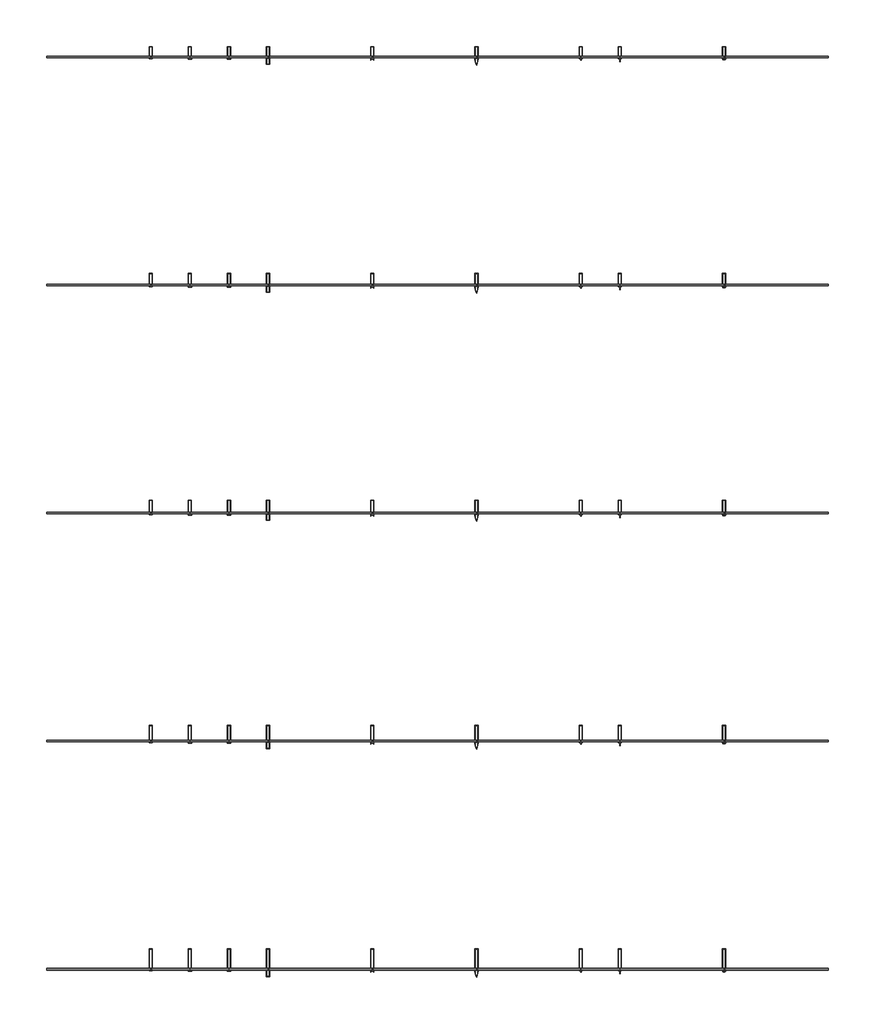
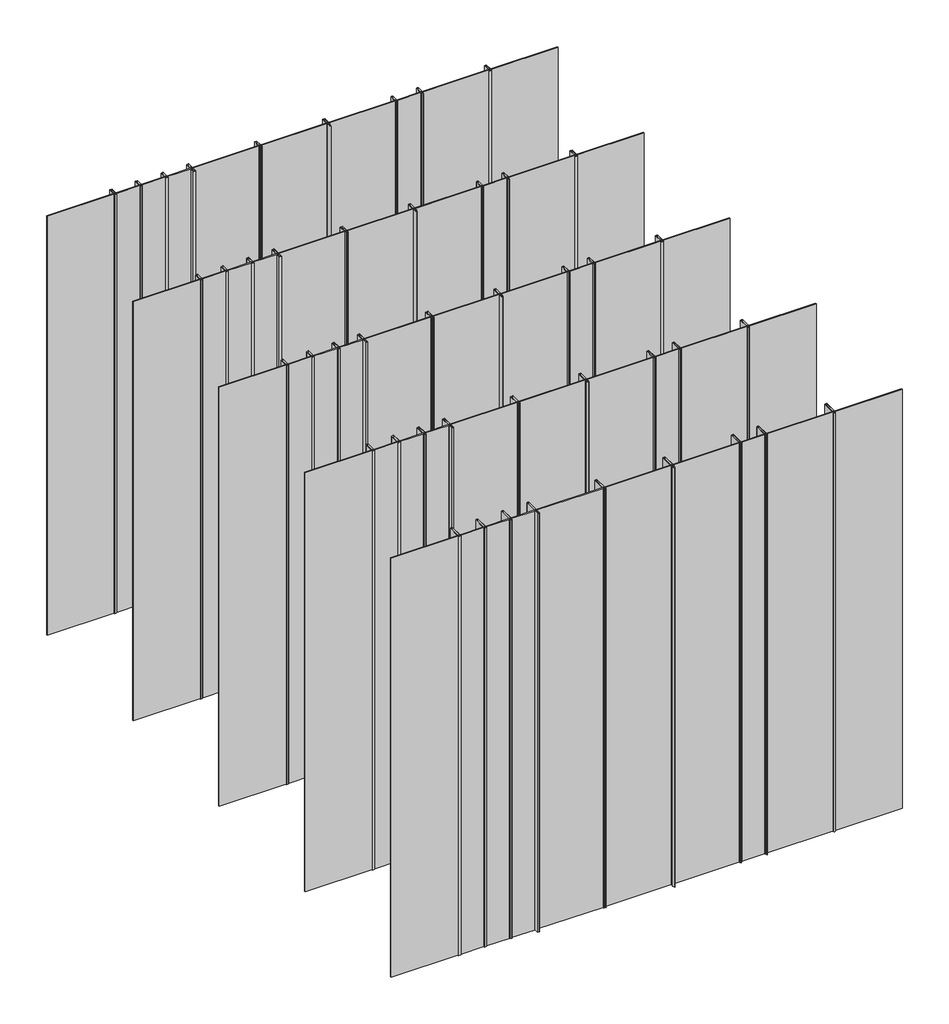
# One storey, part 1 of 4: 50 plates, 45 members.
"""IFC4 building model written with IfcOpenShell, lengths in millimetres."""

from ifc_helpers import new_model, si_unit, origin, place, context, project, spatial, transform, mapped, element, save
from components import rectangular_mullion_d0eb4cb8, rectangular_mullion_f5edc5a7, rectangular_mullion_cf849627, rectangular_mullion_43de7448, rectangular_mullion_2c88a467, rectangular_mullion_527ebe75, rectangular_mullion_81fc8274, rectangular_mullion_62c5082b, rectangular_mullion_2c83495f, rectangular_mullion_db33fd7b, rectangular_mullion_036f0f09, rectangular_mullion_a5cadd81, rectangular_mullion_3d8f77e9, rectangular_mullion_0ee489e0, rectangular_mullion_ee727ef9, rectangular_mullion_229a14fd, rectangular_mullion_20ecc878, rectangular_mullion_15e3f534, rectangular_mullion_2822aa4c, rectangular_mullion_aae8f897, rectangular_mullion_af04c52f, rectangular_mullion_7139fb04, rectangular_mullion_7e934bc7, rectangular_mullion_a4b37306, rectangular_mullion_7ff22dc9, rectangular_mullion_8f96b9b0, rectangular_mullion_b52e2a40, rectangular_mullion_8de3acb8, rectangular_mullion_db6ba1d2, rectangular_mullion_6ef7ea1f, rectangular_mullion_970c577f, rectangular_mullion_9c625121, rectangular_mullion_58af8453, rectangular_mullion_57f380c9, rectangular_mullion_feab08c6, rectangular_mullion_ce290009, rectangular_mullion_144b9211, rectangular_mullion_dca4aa0a, rectangular_mullion_fc27753a, rectangular_mullion_9ba78f65, rectangular_mullion_7aba0d7b, rectangular_mullion_e1deb40f, rectangular_mullion_7178fe73, rectangular_mullion_e64b012d, rectangular_mullion_f5329817, system_panel_glazed_5a8f3fa4, system_panel_glazed_dbcdabc9, system_panel_glazed_78f67ebd, system_panel_glazed_138f9669

model = new_model("IFC4")

# Units and contexts
model_context = context("Model", 3, world=origin())
ifc_project = project(units=[si_unit("LENGTHUNIT", "METRE", prefix="MILLI")], contexts=[model_context])

# Site, building, storey
site = spatial("IfcSite", under=ifc_project)
building = spatial("IfcBuilding", under=site)
storey = spatial("IfcBuildingStorey", under=building, Name="REY 01 - Overview Mullions", Elevation=0.0)

# Members
placement = place(None, origin())
rectangular_mullion_shape = rectangular_mullion_d0eb4cb8(model_context)
element("IfcMember", 1, ObjectType="Rectangular Mullion : Reynaers_CW-50_Mullion-Transom_Vertical_149.8mm_Facecap-02A", at=placement, inside=storey, context=model_context, shape_type="MappedRepresentation", body=[
    mapped(rectangular_mullion_shape, transform((-14129.591144, -18600.3540011, 0.0), x_axis=(-1.0, 0.0, 0.0), y_axis=(0.0, 1.0, 0.0), z_axis=(0.0, 0.0, -1.0))),
])
rectangular_mullion_2_shape = rectangular_mullion_f5edc5a7(model_context)
element("IfcMember", 2, ObjectType="Rectangular Mullion : Reynaers_CW-50_Mullion-Transom_Vertical_149.8mm_Facecap-02B", at=placement, inside=storey, context=model_context, shape_type="MappedRepresentation", body=[
    mapped(rectangular_mullion_2_shape, transform((-13529.591144, -18600.3540011, 0.0), x_axis=(-1.0, 0.0, 0.0), y_axis=(0.0, 1.0, 0.0), z_axis=(0.0, 0.0, -1.0))),
])
rectangular_mullion_3_shape = rectangular_mullion_cf849627(model_context)
element("IfcMember", 3, ObjectType="Rectangular Mullion : Reynaers_CW-50_Mullion-Transom_Vertical_149.8mm_Facecap-02C", at=placement, inside=storey, context=model_context, shape_type="MappedRepresentation", body=[
    mapped(rectangular_mullion_3_shape, transform((-12929.591144, -18600.3540011, 0.0), x_axis=(-1.0, 0.0, 0.0), y_axis=(0.0, 1.0, 0.0), z_axis=(0.0, 0.0, -1.0))),
])
rectangular_mullion_4_shape = rectangular_mullion_43de7448(model_context)
element("IfcMember", 4, ObjectType="Rectangular Mullion : Reynaers_CW-50_Mullion-Transom_Vertical_149.8mm_Facecap-02D", at=placement, inside=storey, context=model_context, shape_type="MappedRepresentation", body=[
    mapped(rectangular_mullion_4_shape, transform((-12329.591144, -18600.3540011, 0.0), x_axis=(-1.0, 0.0, 0.0), y_axis=(0.0, 1.0, 0.0), z_axis=(0.0, 0.0, -1.0))),
])
rectangular_mullion_5_shape = rectangular_mullion_2c88a467(model_context)
element("IfcMember", 5, ObjectType="Rectangular Mullion : Reynaers_CW-50_Mullion-Transom_Vertical_149.8mm_Facecap-03", at=placement, inside=storey, context=model_context, shape_type="MappedRepresentation", body=[
    mapped(rectangular_mullion_5_shape, transform((-10729.591144, -18600.3540011, 0.0), x_axis=(-1.0, 0.0, 0.0), y_axis=(0.0, 1.0, 0.0), z_axis=(0.0, 0.0, -1.0))),
])
rectangular_mullion_6_shape = rectangular_mullion_527ebe75(model_context)
element("IfcMember", 6, ObjectType="Rectangular Mullion : Reynaers_CW-50_Mullion-Transom_Vertical_149.5mm_Facecap-05", at=placement, inside=storey, context=model_context, shape_type="MappedRepresentation", body=[
    mapped(rectangular_mullion_6_shape, transform((-9129.591144, -18600.3540011, 0.0), x_axis=(-1.0, 0.0, 0.0), y_axis=(0.0, 1.0, 0.0), z_axis=(0.0, 0.0, -1.0))),
])
rectangular_mullion_7_shape = rectangular_mullion_81fc8274(model_context)
element("IfcMember", 7, ObjectType="Rectangular Mullion : Reynaers_CW-50_Mullion-Transom_Vertical_149.5mm_Facecap-06A", at=placement, inside=storey, context=model_context, shape_type="MappedRepresentation", body=[
    mapped(rectangular_mullion_7_shape, transform((-7529.591144, -18600.3540011, 0.0), x_axis=(-1.0, 0.0, 0.0), y_axis=(0.0, 1.0, 0.0), z_axis=(0.0, 0.0, -1.0))),
])
rectangular_mullion_8_shape = rectangular_mullion_62c5082b(model_context)
element("IfcMember", 8, ObjectType="Rectangular Mullion : Reynaers_CW-50_Mullion-Transom_Vertical_149.5mm_Facecap-06B", at=placement, inside=storey, context=model_context, shape_type="MappedRepresentation", body=[
    mapped(rectangular_mullion_8_shape, transform((-6929.591144, -18600.3540011, 0.0), x_axis=(-1.0, 0.0, 0.0), y_axis=(0.0, 1.0, 0.0), z_axis=(0.0, 0.0, -1.0))),
])
rectangular_mullion_9_shape = rectangular_mullion_2c83495f(model_context)
element("IfcMember", 9, ObjectType="Rectangular Mullion : Reynaers_CW-50_Mullion-Transom_Vertical_149.5mm_Facecap-07", at=placement, inside=storey, context=model_context, shape_type="MappedRepresentation", body=[
    mapped(rectangular_mullion_9_shape, transform((-5329.591144, -18600.3540011, 0.0), x_axis=(-1.0, 0.0, 0.0), y_axis=(0.0, 1.0, 0.0), z_axis=(0.0, 0.0, -1.0))),
])
rectangular_mullion_10_shape = rectangular_mullion_db33fd7b(model_context)
element("IfcMember", 10, ObjectType="Rectangular Mullion : Reynaers_CW-50_Mullion-Transom_Vertical_167.5mm_Facecap-02A", at=placement, inside=storey, context=model_context, shape_type="MappedRepresentation", body=[
    mapped(rectangular_mullion_10_shape, transform((-14129.591144, -22100.3540011, 0.0), x_axis=(-1.0, 0.0, 0.0), y_axis=(0.0, 1.0, 0.0), z_axis=(0.0, 0.0, -1.0))),
])
rectangular_mullion_11_shape = rectangular_mullion_036f0f09(model_context)
element("IfcMember", 11, ObjectType="Rectangular Mullion : Reynaers_CW-50_Mullion-Transom_Vertical_167.5mm_Facecap-02B", at=placement, inside=storey, context=model_context, shape_type="MappedRepresentation", body=[
    mapped(rectangular_mullion_11_shape, transform((-13529.591144, -22100.3540011, 0.0), x_axis=(-1.0, 0.0, 0.0), y_axis=(0.0, 1.0, 0.0), z_axis=(0.0, 0.0, -1.0))),
])
rectangular_mullion_12_shape = rectangular_mullion_a5cadd81(model_context)
element("IfcMember", 12, ObjectType="Rectangular Mullion : Reynaers_CW-50_Mullion-Transom_Vertical_167.5mm_Facecap-02C", at=placement, inside=storey, context=model_context, shape_type="MappedRepresentation", body=[
    mapped(rectangular_mullion_12_shape, transform((-12929.591144, -22100.3540011, 0.0), x_axis=(-1.0, 0.0, 0.0), y_axis=(0.0, 1.0, 0.0), z_axis=(0.0, 0.0, -1.0))),
])
rectangular_mullion_13_shape = rectangular_mullion_3d8f77e9(model_context)
element("IfcMember", 13, ObjectType="Rectangular Mullion : Reynaers_CW-50_Mullion-Transom_Vertical_167.5mm_Facecap-02D", at=placement, inside=storey, context=model_context, shape_type="MappedRepresentation", body=[
    mapped(rectangular_mullion_13_shape, transform((-12329.591144, -22100.3540011, 0.0), x_axis=(-1.0, 0.0, 0.0), y_axis=(0.0, 1.0, 0.0), z_axis=(0.0, 0.0, -1.0))),
])
rectangular_mullion_14_shape = rectangular_mullion_0ee489e0(model_context)
element("IfcMember", 14, ObjectType="Rectangular Mullion : Reynaers_CW-50_Mullion-Transom_Vertical_167.5mm_Facecap-03", at=placement, inside=storey, context=model_context, shape_type="MappedRepresentation", body=[
    mapped(rectangular_mullion_14_shape, transform((-10729.591144, -22100.3540011, 0.0), x_axis=(-1.0, 0.0, 0.0), y_axis=(0.0, 1.0, 0.0), z_axis=(0.0, 0.0, -1.0))),
])
rectangular_mullion_15_shape = rectangular_mullion_ee727ef9(model_context)
element("IfcMember", 15, ObjectType="Rectangular Mullion : Reynaers_CW-50_Mullion-Transom_Vertical_167.5mm_Facecap-05", at=placement, inside=storey, context=model_context, shape_type="MappedRepresentation", body=[
    mapped(rectangular_mullion_15_shape, transform((-9129.591144, -22100.3540011, 0.0), x_axis=(-1.0, 0.0, 0.0), y_axis=(0.0, 1.0, 0.0), z_axis=(0.0, 0.0, -1.0))),
])
rectangular_mullion_16_shape = rectangular_mullion_229a14fd(model_context)
element("IfcMember", 16, ObjectType="Rectangular Mullion : Reynaers_CW-50_Mullion-Transom_Vertical_167.5mm_Facecap-06A", at=placement, inside=storey, context=model_context, shape_type="MappedRepresentation", body=[
    mapped(rectangular_mullion_16_shape, transform((-7529.591144, -22100.3540011, 0.0), x_axis=(-1.0, 0.0, 0.0), y_axis=(0.0, 1.0, 0.0), z_axis=(0.0, 0.0, -1.0))),
])
rectangular_mullion_17_shape = rectangular_mullion_20ecc878(model_context)
element("IfcMember", 17, ObjectType="Rectangular Mullion : Reynaers_CW-50_Mullion-Transom_Vertical_167.5mm_Facecap-06B", at=placement, inside=storey, context=model_context, shape_type="MappedRepresentation", body=[
    mapped(rectangular_mullion_17_shape, transform((-6929.591144, -22100.3540011, 0.0), x_axis=(-1.0, 0.0, 0.0), y_axis=(0.0, 1.0, 0.0), z_axis=(0.0, 0.0, -1.0))),
])
rectangular_mullion_18_shape = rectangular_mullion_15e3f534(model_context)
element("IfcMember", 18, ObjectType="Rectangular Mullion : Reynaers_CW-50_Mullion-Transom_Vertical_167.5mm_Facecap-07", at=placement, inside=storey, context=model_context, shape_type="MappedRepresentation", body=[
    mapped(rectangular_mullion_18_shape, transform((-5329.591144, -22100.3540011, 0.0), x_axis=(-1.0, 0.0, 0.0), y_axis=(0.0, 1.0, 0.0), z_axis=(0.0, 0.0, -1.0))),
])
rectangular_mullion_19_shape = rectangular_mullion_2822aa4c(model_context)
element("IfcMember", 19, ObjectType="Rectangular Mullion : Reynaers_CW-50_Mullion-Transom_Vertical_188.5mm_Facecap-02A", at=placement, inside=storey, context=model_context, shape_type="MappedRepresentation", body=[
    mapped(rectangular_mullion_19_shape, transform((-14129.591144, -25600.3540011, 0.0), x_axis=(-1.0, 0.0, 0.0), y_axis=(0.0, 1.0, 0.0), z_axis=(0.0, 0.0, -1.0))),
])
rectangular_mullion_20_shape = rectangular_mullion_aae8f897(model_context)
element("IfcMember", 20, ObjectType="Rectangular Mullion : Reynaers_CW-50_Mullion-Transom_Vertical_188.5mm_Facecap-02B", at=placement, inside=storey, context=model_context, shape_type="MappedRepresentation", body=[
    mapped(rectangular_mullion_20_shape, transform((-13529.591144, -25600.3540011, 0.0), x_axis=(-1.0, 0.0, 0.0), y_axis=(0.0, 1.0, 0.0), z_axis=(0.0, 0.0, -1.0))),
])
rectangular_mullion_21_shape = rectangular_mullion_af04c52f(model_context)
element("IfcMember", 21, ObjectType="Rectangular Mullion : Reynaers_CW-50_Mullion-Transom_Vertical_188.5mm_Facecap-02C", at=placement, inside=storey, context=model_context, shape_type="MappedRepresentation", body=[
    mapped(rectangular_mullion_21_shape, transform((-12929.591144, -25600.3540011, 0.0), x_axis=(-1.0, 0.0, 0.0), y_axis=(0.0, 1.0, 0.0), z_axis=(0.0, 0.0, -1.0))),
])
rectangular_mullion_22_shape = rectangular_mullion_7139fb04(model_context)
element("IfcMember", 22, ObjectType="Rectangular Mullion : Reynaers_CW-50_Mullion-Transom_Vertical_188.5mm_Facecap-02D", at=placement, inside=storey, context=model_context, shape_type="MappedRepresentation", body=[
    mapped(rectangular_mullion_22_shape, transform((-12329.591144, -25600.3540011, 0.0), x_axis=(-1.0, 0.0, 0.0), y_axis=(0.0, 1.0, 0.0), z_axis=(0.0, 0.0, -1.0))),
])
rectangular_mullion_23_shape = rectangular_mullion_7e934bc7(model_context)
element("IfcMember", 23, ObjectType="Rectangular Mullion : Reynaers_CW-50_Mullion-Transom_Vertical_188.5mm_Facecap-03", at=placement, inside=storey, context=model_context, shape_type="MappedRepresentation", body=[
    mapped(rectangular_mullion_23_shape, transform((-10729.591144, -25600.3540011, 0.0), x_axis=(-1.0, 0.0, 0.0), y_axis=(0.0, 1.0, 0.0), z_axis=(0.0, 0.0, -1.0))),
])
rectangular_mullion_24_shape = rectangular_mullion_a4b37306(model_context)
element("IfcMember", 24, ObjectType="Rectangular Mullion : Reynaers_CW-50_Mullion-Transom_Vertical_188.5mm_Facecap-05", at=placement, inside=storey, context=model_context, shape_type="MappedRepresentation", body=[
    mapped(rectangular_mullion_24_shape, transform((-9129.591144, -25600.3540011, 0.0), x_axis=(-1.0, 0.0, 0.0), y_axis=(0.0, 1.0, 0.0), z_axis=(0.0, 0.0, -1.0))),
])
rectangular_mullion_25_shape = rectangular_mullion_7ff22dc9(model_context)
element("IfcMember", 25, ObjectType="Rectangular Mullion : Reynaers_CW-50_Mullion-Transom_Vertical_188.5mm_Facecap-06A", at=placement, inside=storey, context=model_context, shape_type="MappedRepresentation", body=[
    mapped(rectangular_mullion_25_shape, transform((-7529.591144, -25600.3540011, 0.0), x_axis=(-1.0, 0.0, 0.0), y_axis=(0.0, 1.0, 0.0), z_axis=(0.0, 0.0, -1.0))),
])
rectangular_mullion_26_shape = rectangular_mullion_8f96b9b0(model_context)
element("IfcMember", 26, ObjectType="Rectangular Mullion : Reynaers_CW-50_Mullion-Transom_Vertical_188.5mm_Facecap-06B", at=placement, inside=storey, context=model_context, shape_type="MappedRepresentation", body=[
    mapped(rectangular_mullion_26_shape, transform((-6929.591144, -25600.3540011, 0.0), x_axis=(-1.0, 0.0, 0.0), y_axis=(0.0, 1.0, 0.0), z_axis=(0.0, 0.0, -1.0))),
])
rectangular_mullion_27_shape = rectangular_mullion_b52e2a40(model_context)
element("IfcMember", 27, ObjectType="Rectangular Mullion : Reynaers_CW-50_Mullion-Transom_Vertical_188.5mm_Facecap-07", at=placement, inside=storey, context=model_context, shape_type="MappedRepresentation", body=[
    mapped(rectangular_mullion_27_shape, transform((-5329.591144, -25600.3540011, 0.0), x_axis=(-1.0, 0.0, 0.0), y_axis=(0.0, 1.0, 0.0), z_axis=(0.0, 0.0, -1.0))),
])
rectangular_mullion_28_shape = rectangular_mullion_8de3acb8(model_context)
element("IfcMember", 28, ObjectType="Rectangular Mullion : Reynaers_CW-50_Mullion-Transom_Vertical_230.5mm_Facecap-02A", at=placement, inside=storey, context=model_context, shape_type="MappedRepresentation", body=[
    mapped(rectangular_mullion_28_shape, transform((-14129.591144, -29100.3540011, 0.0), x_axis=(-1.0, 0.0, 0.0), y_axis=(0.0, 1.0, 0.0), z_axis=(0.0, 0.0, -1.0))),
])
rectangular_mullion_29_shape = rectangular_mullion_db6ba1d2(model_context)
element("IfcMember", 29, ObjectType="Rectangular Mullion : Reynaers_CW-50_Mullion-Transom_Vertical_230.5mm_Facecap-02B", at=placement, inside=storey, context=model_context, shape_type="MappedRepresentation", body=[
    mapped(rectangular_mullion_29_shape, transform((-13529.591144, -29100.3540011, 0.0), x_axis=(-1.0, 0.0, 0.0), y_axis=(0.0, 1.0, 0.0), z_axis=(0.0, 0.0, -1.0))),
])
rectangular_mullion_30_shape = rectangular_mullion_6ef7ea1f(model_context)
element("IfcMember", 30, ObjectType="Rectangular Mullion : Reynaers_CW-50_Mullion-Transom_Vertical_230.5mm_Facecap-02C", at=placement, inside=storey, context=model_context, shape_type="MappedRepresentation", body=[
    mapped(rectangular_mullion_30_shape, transform((-12929.591144, -29100.3540011, 0.0), x_axis=(-1.0, 0.0, 0.0), y_axis=(0.0, 1.0, 0.0), z_axis=(0.0, 0.0, -1.0))),
])
rectangular_mullion_31_shape = rectangular_mullion_970c577f(model_context)
element("IfcMember", 31, ObjectType="Rectangular Mullion : Reynaers_CW-50_Mullion-Transom_Vertical_230.5mm_Facecap-02D", at=placement, inside=storey, context=model_context, shape_type="MappedRepresentation", body=[
    mapped(rectangular_mullion_31_shape, transform((-12329.591144, -29100.3540011, 0.0), x_axis=(-1.0, 0.0, 0.0), y_axis=(0.0, 1.0, 0.0), z_axis=(0.0, 0.0, -1.0))),
])
rectangular_mullion_32_shape = rectangular_mullion_9c625121(model_context)
element("IfcMember", 32, ObjectType="Rectangular Mullion : Reynaers_CW-50_Mullion-Transom_Vertical_230.5mm_Facecap-03", at=placement, inside=storey, context=model_context, shape_type="MappedRepresentation", body=[
    mapped(rectangular_mullion_32_shape, transform((-10729.591144, -29100.3540011, 0.0), x_axis=(-1.0, 0.0, 0.0), y_axis=(0.0, 1.0, 0.0), z_axis=(0.0, 0.0, -1.0))),
])
rectangular_mullion_33_shape = rectangular_mullion_58af8453(model_context)
element("IfcMember", 33, ObjectType="Rectangular Mullion : Reynaers_CW-50_Mullion-Transom_Vertical_230.5mm_Facecap-05", at=placement, inside=storey, context=model_context, shape_type="MappedRepresentation", body=[
    mapped(rectangular_mullion_33_shape, transform((-9129.591144, -29100.3540011, 0.0), x_axis=(-1.0, 0.0, 0.0), y_axis=(0.0, 1.0, 0.0), z_axis=(0.0, 0.0, -1.0))),
])
rectangular_mullion_34_shape = rectangular_mullion_57f380c9(model_context)
element("IfcMember", 34, ObjectType="Rectangular Mullion : Reynaers_CW-50_Mullion-Transom_Vertical_230.5mm_Facecap-06A", at=placement, inside=storey, context=model_context, shape_type="MappedRepresentation", body=[
    mapped(rectangular_mullion_34_shape, transform((-7529.591144, -29100.3540011, 0.0), x_axis=(-1.0, 0.0, 0.0), y_axis=(0.0, 1.0, 0.0), z_axis=(0.0, 0.0, -1.0))),
])
rectangular_mullion_35_shape = rectangular_mullion_feab08c6(model_context)
element("IfcMember", 35, ObjectType="Rectangular Mullion : Reynaers_CW-50_Mullion-Transom_Vertical_230.5mm_Facecap-06B", at=placement, inside=storey, context=model_context, shape_type="MappedRepresentation", body=[
    mapped(rectangular_mullion_35_shape, transform((-6929.591144, -29100.3540011, 0.0), x_axis=(-1.0, 0.0, 0.0), y_axis=(0.0, 1.0, 0.0), z_axis=(0.0, 0.0, -1.0))),
])
rectangular_mullion_36_shape = rectangular_mullion_ce290009(model_context)
element("IfcMember", 36, ObjectType="Rectangular Mullion : Reynaers_CW-50_Mullion-Transom_Vertical_230.5mm_Facecap-07", at=placement, inside=storey, context=model_context, shape_type="MappedRepresentation", body=[
    mapped(rectangular_mullion_36_shape, transform((-5329.591144, -29100.3540011, 0.0), x_axis=(-1.0, 0.0, 0.0), y_axis=(0.0, 1.0, 0.0), z_axis=(0.0, 0.0, -1.0))),
])
rectangular_mullion_37_shape = rectangular_mullion_144b9211(model_context)
element("IfcMember", 37, ObjectType="Rectangular Mullion : Reynaers_CW-50_Mullion-Transom_Vertical_300.5mm_Facecap-02A", at=placement, inside=storey, context=model_context, shape_type="MappedRepresentation", body=[
    mapped(rectangular_mullion_37_shape, transform((-14129.591144, -32600.3540011, 0.0), x_axis=(-1.0, 0.0, 0.0), y_axis=(0.0, 1.0, 0.0), z_axis=(0.0, 0.0, -1.0))),
])
rectangular_mullion_38_shape = rectangular_mullion_dca4aa0a(model_context)
element("IfcMember", 38, ObjectType="Rectangular Mullion : Reynaers_CW-50_Mullion-Transom_Vertical_300.5mm_Facecap-02B", at=placement, inside=storey, context=model_context, shape_type="MappedRepresentation", body=[
    mapped(rectangular_mullion_38_shape, transform((-13529.591144, -32600.3540011, 0.0), x_axis=(-1.0, 0.0, 0.0), y_axis=(0.0, 1.0, 0.0), z_axis=(0.0, 0.0, -1.0))),
])
rectangular_mullion_39_shape = rectangular_mullion_fc27753a(model_context)
element("IfcMember", 39, ObjectType="Rectangular Mullion : Reynaers_CW-50_Mullion-Transom_Vertical_300.5mm_Facecap-02C", at=placement, inside=storey, context=model_context, shape_type="MappedRepresentation", body=[
    mapped(rectangular_mullion_39_shape, transform((-12929.591144, -32600.3540011, 0.0), x_axis=(-1.0, 0.0, 0.0), y_axis=(0.0, 1.0, 0.0), z_axis=(0.0, 0.0, -1.0))),
])
rectangular_mullion_40_shape = rectangular_mullion_9ba78f65(model_context)
element("IfcMember", 40, ObjectType="Rectangular Mullion : Reynaers_CW-50_Mullion-Transom_Vertical_300.5mm_Facecap-02D", at=placement, inside=storey, context=model_context, shape_type="MappedRepresentation", body=[
    mapped(rectangular_mullion_40_shape, transform((-12329.591144, -32600.3540011, 0.0), x_axis=(-1.0, 0.0, 0.0), y_axis=(0.0, 1.0, 0.0), z_axis=(0.0, 0.0, -1.0))),
])
rectangular_mullion_41_shape = rectangular_mullion_7aba0d7b(model_context)
element("IfcMember", 41, ObjectType="Rectangular Mullion : Reynaers_CW-50_Mullion-Transom_Vertical_300.5mm_Facecap-03", at=placement, inside=storey, context=model_context, shape_type="MappedRepresentation", body=[
    mapped(rectangular_mullion_41_shape, transform((-10729.591144, -32600.3540011, 0.0), x_axis=(-1.0, 0.0, 0.0), y_axis=(0.0, 1.0, 0.0), z_axis=(0.0, 0.0, -1.0))),
])
rectangular_mullion_42_shape = rectangular_mullion_e1deb40f(model_context)
element("IfcMember", 42, ObjectType="Rectangular Mullion : Reynaers_CW-50_Mullion-Transom_Vertical_300.5mm_Facecap-05", at=placement, inside=storey, context=model_context, shape_type="MappedRepresentation", body=[
    mapped(rectangular_mullion_42_shape, transform((-9129.591144, -32600.3540011, 0.0), x_axis=(-1.0, 0.0, 0.0), y_axis=(0.0, 1.0, 0.0), z_axis=(0.0, 0.0, -1.0))),
])
rectangular_mullion_43_shape = rectangular_mullion_7178fe73(model_context)
element("IfcMember", 43, ObjectType="Rectangular Mullion : Reynaers_CW-50_Mullion-Transom_Vertical_300.5mm_Facecap-06A", at=placement, inside=storey, context=model_context, shape_type="MappedRepresentation", body=[
    mapped(rectangular_mullion_43_shape, transform((-7529.591144, -32600.3540011, 0.0), x_axis=(-1.0, 0.0, 0.0), y_axis=(0.0, 1.0, 0.0), z_axis=(0.0, 0.0, -1.0))),
])
rectangular_mullion_44_shape = rectangular_mullion_e64b012d(model_context)
element("IfcMember", 44, ObjectType="Rectangular Mullion : Reynaers_CW-50_Mullion-Transom_Vertical_300.5mm_Facecap-06B", at=placement, inside=storey, context=model_context, shape_type="MappedRepresentation", body=[
    mapped(rectangular_mullion_44_shape, transform((-6929.591144, -32600.3540011, 0.0), x_axis=(-1.0, 0.0, 0.0), y_axis=(0.0, 1.0, 0.0), z_axis=(0.0, 0.0, -1.0))),
])
rectangular_mullion_45_shape = rectangular_mullion_f5329817(model_context)
element("IfcMember", 45, ObjectType="Rectangular Mullion : Reynaers_CW-50_Mullion-Transom_Vertical_300.5mm_Facecap-07", at=placement, inside=storey, context=model_context, shape_type="MappedRepresentation", body=[
    mapped(rectangular_mullion_45_shape, transform((-5329.591144, -32600.3540011, 0.0), x_axis=(-1.0, 0.0, 0.0), y_axis=(0.0, 1.0, 0.0), z_axis=(0.0, 0.0, -1.0))),
])

# Plates
system_panel_glazed_shape = system_panel_glazed_5a8f3fa4(model_context)
element("IfcPlate", 46, ObjectType="System Panel : Glazed", at=placement, inside=storey, context=model_context, shape_type="MappedRepresentation", body=[
    mapped(system_panel_glazed_shape, transform((-4527.140941, -18600.3540011, 0.0), x_axis=(-1.0, 0.0, 0.0), y_axis=(0.0, -1.0, 0.0), z_axis=(0.0, 0.0, 1.0))),
])
element("IfcPlate", 47, ObjectType="System Panel : Glazed", at=placement, inside=storey, context=model_context, shape_type="MappedRepresentation", body=[
    mapped(system_panel_glazed_shape, transform((-4527.140941, -22100.3540011, 0.0), x_axis=(-1.0, 0.0, 0.0), y_axis=(0.0, -1.0, 0.0), z_axis=(0.0, 0.0, 1.0))),
])
element("IfcPlate", 48, ObjectType="System Panel : Glazed", at=placement, inside=storey, context=model_context, shape_type="MappedRepresentation", body=[
    mapped(system_panel_glazed_shape, transform((-4527.140941, -25600.3540011, 0.0), x_axis=(-1.0, 0.0, 0.0), y_axis=(0.0, -1.0, 0.0), z_axis=(0.0, 0.0, 1.0))),
])
element("IfcPlate", 49, ObjectType="System Panel : Glazed", at=placement, inside=storey, context=model_context, shape_type="MappedRepresentation", body=[
    mapped(system_panel_glazed_shape, transform((-4527.140941, -29100.3540011, 0.0), x_axis=(-1.0, 0.0, 0.0), y_axis=(0.0, -1.0, 0.0), z_axis=(0.0, 0.0, 1.0))),
])
element("IfcPlate", 50, ObjectType="System Panel : Glazed", at=placement, inside=storey, context=model_context, shape_type="MappedRepresentation", body=[
    mapped(system_panel_glazed_shape, transform((-4527.140941, -32600.3540011, 0.0), x_axis=(-1.0, 0.0, 0.0), y_axis=(0.0, -1.0, 0.0), z_axis=(0.0, 0.0, 1.0))),
])
system_panel_glazed_2_shape = system_panel_glazed_dbcdabc9(model_context)
element("IfcPlate", 51, ObjectType="System Panel : Glazed", at=placement, inside=storey, context=model_context, shape_type="MappedRepresentation", body=[
    mapped(system_panel_glazed_2_shape, transform((-14932.240941, -18600.3540011, 0.0), x_axis=(-1.0, 0.0, 0.0), y_axis=(0.0, -1.0, 0.0), z_axis=(0.0, 0.0, 1.0))),
])
element("IfcPlate", 52, ObjectType="System Panel : Glazed", at=placement, inside=storey, context=model_context, shape_type="MappedRepresentation", body=[
    mapped(system_panel_glazed_2_shape, transform((-14932.240941, -22100.3540011, 0.0), x_axis=(-1.0, 0.0, 0.0), y_axis=(0.0, -1.0, 0.0), z_axis=(0.0, 0.0, 1.0))),
])
element("IfcPlate", 53, ObjectType="System Panel : Glazed", at=placement, inside=storey, context=model_context, shape_type="MappedRepresentation", body=[
    mapped(system_panel_glazed_2_shape, transform((-14932.240941, -25600.3540011, 0.0), x_axis=(-1.0, 0.0, 0.0), y_axis=(0.0, -1.0, 0.0), z_axis=(0.0, 0.0, 1.0))),
])
element("IfcPlate", 54, ObjectType="System Panel : Glazed", at=placement, inside=storey, context=model_context, shape_type="MappedRepresentation", body=[
    mapped(system_panel_glazed_2_shape, transform((-14932.240941, -29100.3540011, 0.0), x_axis=(-1.0, 0.0, 0.0), y_axis=(0.0, -1.0, 0.0), z_axis=(0.0, 0.0, 1.0))),
])
element("IfcPlate", 55, ObjectType="System Panel : Glazed", at=placement, inside=storey, context=model_context, shape_type="MappedRepresentation", body=[
    mapped(system_panel_glazed_2_shape, transform((-14932.240941, -32600.3540011, 0.0), x_axis=(-1.0, 0.0, 0.0), y_axis=(0.0, -1.0, 0.0), z_axis=(0.0, 0.0, 1.0))),
])
system_panel_glazed_3_shape = system_panel_glazed_78f67ebd(model_context)
element("IfcPlate", 56, ObjectType="System Panel : Glazed", at=placement, inside=storey, context=model_context, shape_type="MappedRepresentation", body=[
    mapped(system_panel_glazed_3_shape, transform((-6129.7907381, -18600.3540011, 0.0), x_axis=(-1.0, 0.0, 0.0), y_axis=(0.0, -1.0, 0.0), z_axis=(0.0, 0.0, 1.0))),
])
element("IfcPlate", 57, ObjectType="System Panel : Glazed", at=placement, inside=storey, context=model_context, shape_type="MappedRepresentation", body=[
    mapped(system_panel_glazed_3_shape, transform((-8329.7907381, -18600.3540011, 0.0), x_axis=(-1.0, 0.0, 0.0), y_axis=(0.0, -1.0, 0.0), z_axis=(0.0, 0.0, 1.0))),
])
element("IfcPlate", 58, ObjectType="System Panel : Glazed", at=placement, inside=storey, context=model_context, shape_type="MappedRepresentation", body=[
    mapped(system_panel_glazed_3_shape, transform((-9929.7907381, -18600.3540011, 0.0), x_axis=(-1.0, 0.0, 0.0), y_axis=(0.0, -1.0, 0.0), z_axis=(0.0, 0.0, 1.0))),
])
element("IfcPlate", 59, ObjectType="System Panel : Glazed", at=placement, inside=storey, context=model_context, shape_type="MappedRepresentation", body=[
    mapped(system_panel_glazed_3_shape, transform((-11529.7907381, -18600.3540011, 0.0), x_axis=(-1.0, 0.0, 0.0), y_axis=(0.0, -1.0, 0.0), z_axis=(0.0, 0.0, 1.0))),
])
element("IfcPlate", 60, ObjectType="System Panel : Glazed", at=placement, inside=storey, context=model_context, shape_type="MappedRepresentation", body=[
    mapped(system_panel_glazed_3_shape, transform((-6129.7907381, -22100.3540011, 0.0), x_axis=(-1.0, 0.0, 0.0), y_axis=(0.0, -1.0, 0.0), z_axis=(0.0, 0.0, 1.0))),
])
element("IfcPlate", 61, ObjectType="System Panel : Glazed", at=placement, inside=storey, context=model_context, shape_type="MappedRepresentation", body=[
    mapped(system_panel_glazed_3_shape, transform((-8329.7907381, -22100.3540011, 0.0), x_axis=(-1.0, 0.0, 0.0), y_axis=(0.0, -1.0, 0.0), z_axis=(0.0, 0.0, 1.0))),
])
element("IfcPlate", 62, ObjectType="System Panel : Glazed", at=placement, inside=storey, context=model_context, shape_type="MappedRepresentation", body=[
    mapped(system_panel_glazed_3_shape, transform((-9929.7907381, -22100.3540011, 0.0), x_axis=(-1.0, 0.0, 0.0), y_axis=(0.0, -1.0, 0.0), z_axis=(0.0, 0.0, 1.0))),
])
element("IfcPlate", 63, ObjectType="System Panel : Glazed", at=placement, inside=storey, context=model_context, shape_type="MappedRepresentation", body=[
    mapped(system_panel_glazed_3_shape, transform((-11529.7907381, -22100.3540011, 0.0), x_axis=(-1.0, 0.0, 0.0), y_axis=(0.0, -1.0, 0.0), z_axis=(0.0, 0.0, 1.0))),
])
element("IfcPlate", 64, ObjectType="System Panel : Glazed", at=placement, inside=storey, context=model_context, shape_type="MappedRepresentation", body=[
    mapped(system_panel_glazed_3_shape, transform((-6129.7907381, -25600.3540011, 0.0), x_axis=(-1.0, 0.0, 0.0), y_axis=(0.0, -1.0, 0.0), z_axis=(0.0, 0.0, 1.0))),
])
element("IfcPlate", 65, ObjectType="System Panel : Glazed", at=placement, inside=storey, context=model_context, shape_type="MappedRepresentation", body=[
    mapped(system_panel_glazed_3_shape, transform((-8329.7907381, -25600.3540011, 0.0), x_axis=(-1.0, 0.0, 0.0), y_axis=(0.0, -1.0, 0.0), z_axis=(0.0, 0.0, 1.0))),
])
element("IfcPlate", 66, ObjectType="System Panel : Glazed", at=placement, inside=storey, context=model_context, shape_type="MappedRepresentation", body=[
    mapped(system_panel_glazed_3_shape, transform((-9929.7907381, -25600.3540011, 0.0), x_axis=(-1.0, 0.0, 0.0), y_axis=(0.0, -1.0, 0.0), z_axis=(0.0, 0.0, 1.0))),
])
element("IfcPlate", 67, ObjectType="System Panel : Glazed", at=placement, inside=storey, context=model_context, shape_type="MappedRepresentation", body=[
    mapped(system_panel_glazed_3_shape, transform((-11529.7907381, -25600.3540011, 0.0), x_axis=(-1.0, 0.0, 0.0), y_axis=(0.0, -1.0, 0.0), z_axis=(0.0, 0.0, 1.0))),
])
element("IfcPlate", 68, ObjectType="System Panel : Glazed", at=placement, inside=storey, context=model_context, shape_type="MappedRepresentation", body=[
    mapped(system_panel_glazed_3_shape, transform((-6129.7907381, -29100.3540011, 0.0), x_axis=(-1.0, 0.0, 0.0), y_axis=(0.0, -1.0, 0.0), z_axis=(0.0, 0.0, 1.0))),
])
element("IfcPlate", 69, ObjectType="System Panel : Glazed", at=placement, inside=storey, context=model_context, shape_type="MappedRepresentation", body=[
    mapped(system_panel_glazed_3_shape, transform((-8329.7907381, -29100.3540011, 0.0), x_axis=(-1.0, 0.0, 0.0), y_axis=(0.0, -1.0, 0.0), z_axis=(0.0, 0.0, 1.0))),
])
element("IfcPlate", 70, ObjectType="System Panel : Glazed", at=placement, inside=storey, context=model_context, shape_type="MappedRepresentation", body=[
    mapped(system_panel_glazed_3_shape, transform((-9929.7907381, -29100.3540011, 0.0), x_axis=(-1.0, 0.0, 0.0), y_axis=(0.0, -1.0, 0.0), z_axis=(0.0, 0.0, 1.0))),
])
element("IfcPlate", 71, ObjectType="System Panel : Glazed", at=placement, inside=storey, context=model_context, shape_type="MappedRepresentation", body=[
    mapped(system_panel_glazed_3_shape, transform((-11529.7907381, -29100.3540011, 0.0), x_axis=(-1.0, 0.0, 0.0), y_axis=(0.0, -1.0, 0.0), z_axis=(0.0, 0.0, 1.0))),
])
element("IfcPlate", 72, ObjectType="System Panel : Glazed", at=placement, inside=storey, context=model_context, shape_type="MappedRepresentation", body=[
    mapped(system_panel_glazed_3_shape, transform((-6129.7907381, -32600.3540011, 0.0), x_axis=(-1.0, 0.0, 0.0), y_axis=(0.0, -1.0, 0.0), z_axis=(0.0, 0.0, 1.0))),
])
element("IfcPlate", 73, ObjectType="System Panel : Glazed", at=placement, inside=storey, context=model_context, shape_type="MappedRepresentation", body=[
    mapped(system_panel_glazed_3_shape, transform((-8329.7907381, -32600.3540011, 0.0), x_axis=(-1.0, 0.0, 0.0), y_axis=(0.0, -1.0, 0.0), z_axis=(0.0, 0.0, 1.0))),
])
element("IfcPlate", 74, ObjectType="System Panel : Glazed", at=placement, inside=storey, context=model_context, shape_type="MappedRepresentation", body=[
    mapped(system_panel_glazed_3_shape, transform((-9929.7907381, -32600.3540011, 0.0), x_axis=(-1.0, 0.0, 0.0), y_axis=(0.0, -1.0, 0.0), z_axis=(0.0, 0.0, 1.0))),
])
element("IfcPlate", 75, ObjectType="System Panel : Glazed", at=placement, inside=storey, context=model_context, shape_type="MappedRepresentation", body=[
    mapped(system_panel_glazed_3_shape, transform((-11529.7907381, -32600.3540011, 0.0), x_axis=(-1.0, 0.0, 0.0), y_axis=(0.0, -1.0, 0.0), z_axis=(0.0, 0.0, 1.0))),
])
system_panel_glazed_4_shape = system_panel_glazed_138f9669(model_context)
element("IfcPlate", 76, ObjectType="System Panel : Glazed", at=placement, inside=storey, context=model_context, shape_type="MappedRepresentation", body=[
    mapped(system_panel_glazed_4_shape, transform((-7229.7907381, -18600.3540011, 0.0), x_axis=(-1.0, 0.0, 0.0), y_axis=(0.0, -1.0, 0.0), z_axis=(0.0, 0.0, 1.0))),
])
element("IfcPlate", 77, ObjectType="System Panel : Glazed", at=placement, inside=storey, context=model_context, shape_type="MappedRepresentation", body=[
    mapped(system_panel_glazed_4_shape, transform((-13829.7907381, -18600.3540011, 0.0), x_axis=(-1.0, 0.0, 0.0), y_axis=(0.0, -1.0, 0.0), z_axis=(0.0, 0.0, 1.0))),
])
element("IfcPlate", 78, ObjectType="System Panel : Glazed", at=placement, inside=storey, context=model_context, shape_type="MappedRepresentation", body=[
    mapped(system_panel_glazed_4_shape, transform((-13229.7907381, -18600.3540011, 0.0), x_axis=(-1.0, 0.0, 0.0), y_axis=(0.0, -1.0, 0.0), z_axis=(0.0, 0.0, 1.0))),
])
element("IfcPlate", 79, ObjectType="System Panel : Glazed", at=placement, inside=storey, context=model_context, shape_type="MappedRepresentation", body=[
    mapped(system_panel_glazed_4_shape, transform((-12629.7907381, -18600.3540011, 0.0), x_axis=(-1.0, 0.0, 0.0), y_axis=(0.0, -1.0, 0.0), z_axis=(0.0, 0.0, 1.0))),
])
element("IfcPlate", 80, ObjectType="System Panel : Glazed", at=placement, inside=storey, context=model_context, shape_type="MappedRepresentation", body=[
    mapped(system_panel_glazed_4_shape, transform((-7229.7907381, -22100.3540011, 0.0), x_axis=(-1.0, 0.0, 0.0), y_axis=(0.0, -1.0, 0.0), z_axis=(0.0, 0.0, 1.0))),
])
element("IfcPlate", 81, ObjectType="System Panel : Glazed", at=placement, inside=storey, context=model_context, shape_type="MappedRepresentation", body=[
    mapped(system_panel_glazed_4_shape, transform((-13829.7907381, -22100.3540011, 0.0), x_axis=(-1.0, 0.0, 0.0), y_axis=(0.0, -1.0, 0.0), z_axis=(0.0, 0.0, 1.0))),
])
element("IfcPlate", 82, ObjectType="System Panel : Glazed", at=placement, inside=storey, context=model_context, shape_type="MappedRepresentation", body=[
    mapped(system_panel_glazed_4_shape, transform((-13229.7907381, -22100.3540011, 0.0), x_axis=(-1.0, 0.0, 0.0), y_axis=(0.0, -1.0, 0.0), z_axis=(0.0, 0.0, 1.0))),
])
element("IfcPlate", 83, ObjectType="System Panel : Glazed", at=placement, inside=storey, context=model_context, shape_type="MappedRepresentation", body=[
    mapped(system_panel_glazed_4_shape, transform((-12629.7907381, -22100.3540011, 0.0), x_axis=(-1.0, 0.0, 0.0), y_axis=(0.0, -1.0, 0.0), z_axis=(0.0, 0.0, 1.0))),
])
element("IfcPlate", 84, ObjectType="System Panel : Glazed", at=placement, inside=storey, context=model_context, shape_type="MappedRepresentation", body=[
    mapped(system_panel_glazed_4_shape, transform((-7229.7907381, -25600.3540011, 0.0), x_axis=(-1.0, 0.0, 0.0), y_axis=(0.0, -1.0, 0.0), z_axis=(0.0, 0.0, 1.0))),
])
element("IfcPlate", 85, ObjectType="System Panel : Glazed", at=placement, inside=storey, context=model_context, shape_type="MappedRepresentation", body=[
    mapped(system_panel_glazed_4_shape, transform((-13829.7907381, -25600.3540011, 0.0), x_axis=(-1.0, 0.0, 0.0), y_axis=(0.0, -1.0, 0.0), z_axis=(0.0, 0.0, 1.0))),
])
element("IfcPlate", 86, ObjectType="System Panel : Glazed", at=placement, inside=storey, context=model_context, shape_type="MappedRepresentation", body=[
    mapped(system_panel_glazed_4_shape, transform((-13229.7907381, -25600.3540011, 0.0), x_axis=(-1.0, 0.0, 0.0), y_axis=(0.0, -1.0, 0.0), z_axis=(0.0, 0.0, 1.0))),
])
element("IfcPlate", 87, ObjectType="System Panel : Glazed", at=placement, inside=storey, context=model_context, shape_type="MappedRepresentation", body=[
    mapped(system_panel_glazed_4_shape, transform((-12629.7907381, -25600.3540011, 0.0), x_axis=(-1.0, 0.0, 0.0), y_axis=(0.0, -1.0, 0.0), z_axis=(0.0, 0.0, 1.0))),
])
element("IfcPlate", 88, ObjectType="System Panel : Glazed", at=placement, inside=storey, context=model_context, shape_type="MappedRepresentation", body=[
    mapped(system_panel_glazed_4_shape, transform((-7229.7907381, -29100.3540011, 0.0), x_axis=(-1.0, 0.0, 0.0), y_axis=(0.0, -1.0, 0.0), z_axis=(0.0, 0.0, 1.0))),
])
element("IfcPlate", 89, ObjectType="System Panel : Glazed", at=placement, inside=storey, context=model_context, shape_type="MappedRepresentation", body=[
    mapped(system_panel_glazed_4_shape, transform((-13829.7907381, -29100.3540011, 0.0), x_axis=(-1.0, 0.0, 0.0), y_axis=(0.0, -1.0, 0.0), z_axis=(0.0, 0.0, 1.0))),
])
element("IfcPlate", 90, ObjectType="System Panel : Glazed", at=placement, inside=storey, context=model_context, shape_type="MappedRepresentation", body=[
    mapped(system_panel_glazed_4_shape, transform((-13229.7907381, -29100.3540011, 0.0), x_axis=(-1.0, 0.0, 0.0), y_axis=(0.0, -1.0, 0.0), z_axis=(0.0, 0.0, 1.0))),
])
element("IfcPlate", 91, ObjectType="System Panel : Glazed", at=placement, inside=storey, context=model_context, shape_type="MappedRepresentation", body=[
    mapped(system_panel_glazed_4_shape, transform((-12629.7907381, -29100.3540011, 0.0), x_axis=(-1.0, 0.0, 0.0), y_axis=(0.0, -1.0, 0.0), z_axis=(0.0, 0.0, 1.0))),
])
element("IfcPlate", 92, ObjectType="System Panel : Glazed", at=placement, inside=storey, context=model_context, shape_type="MappedRepresentation", body=[
    mapped(system_panel_glazed_4_shape, transform((-7229.7907381, -32600.3540011, 0.0), x_axis=(-1.0, 0.0, 0.0), y_axis=(0.0, -1.0, 0.0), z_axis=(0.0, 0.0, 1.0))),
])
element("IfcPlate", 93, ObjectType="System Panel : Glazed", at=placement, inside=storey, context=model_context, shape_type="MappedRepresentation", body=[
    mapped(system_panel_glazed_4_shape, transform((-13829.7907381, -32600.3540011, 0.0), x_axis=(-1.0, 0.0, 0.0), y_axis=(0.0, -1.0, 0.0), z_axis=(0.0, 0.0, 1.0))),
])
element("IfcPlate", 94, ObjectType="System Panel : Glazed", at=placement, inside=storey, context=model_context, shape_type="MappedRepresentation", body=[
    mapped(system_panel_glazed_4_shape, transform((-13229.7907381, -32600.3540011, 0.0), x_axis=(-1.0, 0.0, 0.0), y_axis=(0.0, -1.0, 0.0), z_axis=(0.0, 0.0, 1.0))),
])
element("IfcPlate", 95, ObjectType="System Panel : Glazed", at=placement, inside=storey, context=model_context, shape_type="MappedRepresentation", body=[
    mapped(system_panel_glazed_4_shape, transform((-12629.7907381, -32600.3540011, 0.0), x_axis=(-1.0, 0.0, 0.0), y_axis=(0.0, -1.0, 0.0), z_axis=(0.0, 0.0, 1.0))),
])

save(model, "model.ifc")
